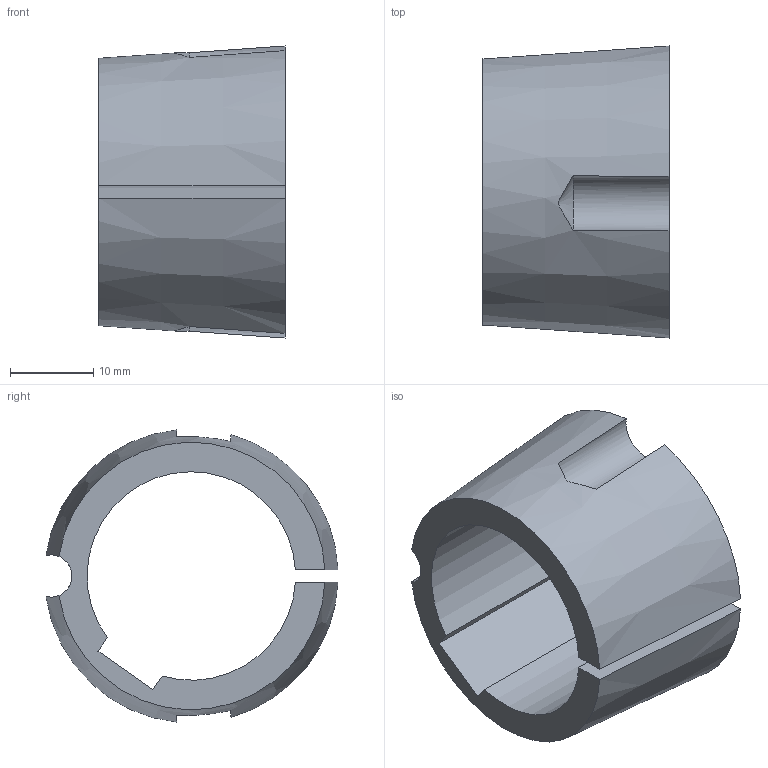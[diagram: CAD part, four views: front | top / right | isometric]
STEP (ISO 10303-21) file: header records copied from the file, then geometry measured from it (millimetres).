
FILE_DESCRIPTION( ( 'STEP AP203' ), '1' );
FILE_NAME( 'D:/export/antriebselemente/spannbuchsen_und_spannsaetze/taper-spannbuchsen_1008_bis_5050/taper-spannbuchsen_62250125Isometric_15.stp', '2018-12-11T11:10:57', ( '' ), ( '' ), ' ', 'PARTsolutions', ' ' );
FILE_SCHEMA( ( 'CONFIG_CONTROL_DESIGN' ) );
Length unit declared in the file: millimetre
Products named in the file (1): _taper-spannbuchsen_62250125
Bounding box: 22.3 x 35.01 x 35.02 mm (x, y, z)
Volume: 7820.6 mm3; surface area: 5187.4 mm2
Topology: 1 solids, 1 shells, 16 faces, 42 edges, 28 vertices
Faces by surface type: plane 7, cylinder 5, cone 4
Entity records: 602 total; most frequent: CARTESIAN_POINT 163, ORIENTED_EDGE 84, DIRECTION 82, EDGE_CURVE 42, AXIS2_PLACEMENT_3D 33, VERTEX_POINT 28, ADVANCED_FACE 16, FACE_OUTER_BOUND 16
